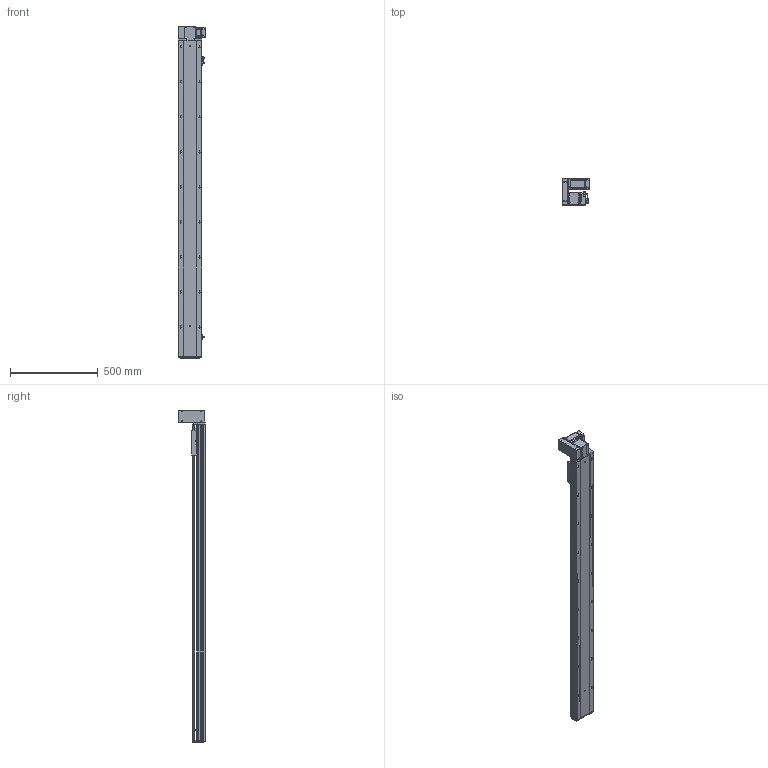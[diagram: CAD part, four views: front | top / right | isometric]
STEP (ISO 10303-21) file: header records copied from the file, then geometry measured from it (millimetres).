
FILE_DESCRIPTION (( 'STEP AP203' ), '1' );
FILE_NAME ('RY140-T-300-UL.SLDASM_1550.step', '2021-03-01T07:44:37', ( '盈信电脑' ), ( '东莞市道滘镇水果街19号' ), 'SwSTEP 2.0', 'SolidWorks 2012', '' );
FILE_SCHEMA (( 'CONFIG_CONTROL_DESIGN' ));
Length unit declared in the file: millimetre
Products named in the file (18): RY140-T-300-DL倰第菁釱_1550; RY140肮祭謫臏賑輸; RY140-T-300-DL倰第奻裔啣_1550; RY140-T翋肮謫裔啣; RY140-T-300-UL.SLDASM_1550; RY120-T主同步轮轴承压盖; RY120-T蹟翐M4; RY140-T萇儂欶; 滅袉蝶18-10; 15; 侂狟400W侜督萇儂; RY140-T萇儂假蚾啣; RY120-T肮祭湍揤踡輸2; RY140-T翋肮祭謫盓傅釱; RY120外置感应片(140共用）; RY120-T肮祭湍揤踡輸1; RY140綴裔啣; 覜茼ん672
Assembly tree (23 placements, depth 3):
  RY140-T-300-UL.SLDASM_1550
    RY140-T-300-DL倰第菁釱_1550
    RY140肮祭謫臏賑輸
    RY140-T-300-DL倰第奻裔啣_1550
    RY140綴裔啣
    覜茼ん672  x3
    RY120外置感应片(140共用）
    RY120-T肮祭湍揤踡輸2
    RY120-T肮祭湍揤踡輸1
    RY140-T翋肮祭謫盓傅釱
    RY140-T萇儂假蚾啣
    侂狟400W侜督萇儂
      15
    RY120-T主同步轮轴承压盖
    RY120-T蹟翐M4  x4
    RY140-T萇儂欶
    滅袉蝶18-10  x2
    RY140-T翋肮謫裔啣
Bounding box: 157 x 152.5 x 1896 mm (x, y, z)
Volume: 5313452.6 mm3; surface area: 2061327.2 mm2
Topology: 22 solids, 22 shells, 2775 faces, 7597 edges, 4848 vertices
Faces by surface type: plane 1381, cylinder 1036, cone 258, bspline 100
Entity records: 87575 total; most frequent: CARTESIAN_POINT 21257, ORIENTED_EDGE 13602, DIRECTION 13001, EDGE_CURVE 6801, VERTEX_POINT 4447, AXIS2_PLACEMENT_3D 4344, LINE 4313, VECTOR 4313
